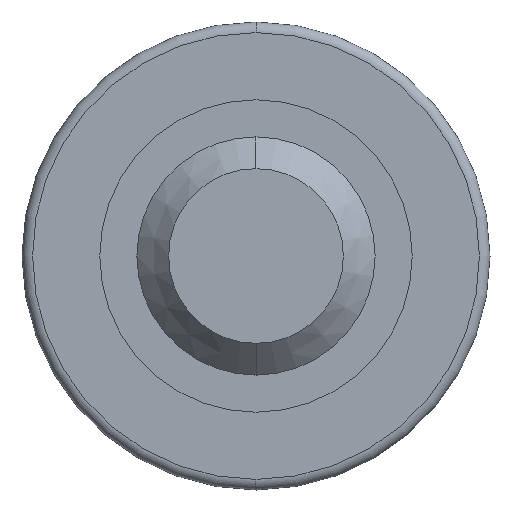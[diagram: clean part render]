
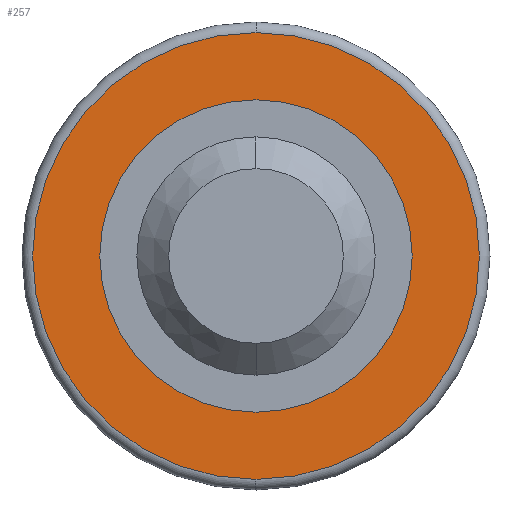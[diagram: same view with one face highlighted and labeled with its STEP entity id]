
A CAD part, left-side view. The second image highlights one B-rep face of the part: STEP entity #257.
In plain terms, the highlighted planar face has unit normal (-1, 0, 0).
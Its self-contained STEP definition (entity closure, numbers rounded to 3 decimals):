
#23 = DIRECTION ( 'NONE',  ( 0., 0., -1. ) ) ;
#33 = AXIS2_PLACEMENT_3D ( 'NONE', #394, #657, #335 ) ;
#59 = ORIENTED_EDGE ( 'NONE', *, *, #359, .T. ) ;
#67 = CARTESIAN_POINT ( 'NONE',  ( 15.5, 0., 42.2 ) ) ;
#81 = DIRECTION ( 'NONE',  ( 0., 0., 1. ) ) ;
#98 = EDGE_LOOP ( 'NONE', ( #265, #449 ) ) ;
#120 = DIRECTION ( 'NONE',  ( 0., 0., 1. ) ) ;
#126 = CARTESIAN_POINT ( 'NONE',  ( 15.5, 0., -42.2 ) ) ;
#139 = AXIS2_PLACEMENT_3D ( 'NONE', #174, #332, #120 ) ;
#147 = VERTEX_POINT ( 'NONE', #534 ) ;
#174 = CARTESIAN_POINT ( 'NONE',  ( 15.5, 0., 0. ) ) ;
#185 = EDGE_CURVE ( 'NONE', #393, #572, #236, .T. ) ;
#234 = CIRCLE ( 'NONE', #463, 29.5 ) ;
#236 = CIRCLE ( 'NONE', #628, 42.2 ) ;
#257 = ADVANCED_FACE ( 'NONE', ( #402, #275 ), #510, .T. ) ;
#265 = ORIENTED_EDGE ( 'NONE', *, *, #185, .T. ) ;
#275 = FACE_BOUND ( 'NONE', #684, .T. ) ;
#306 = DIRECTION ( 'NONE',  ( -1., 0., 0. ) ) ;
#312 = VERTEX_POINT ( 'NONE', #436 ) ;
#332 = DIRECTION ( 'NONE',  ( -1., 0., 0. ) ) ;
#335 = DIRECTION ( 'NONE',  ( 0., 0., -1. ) ) ;
#336 = DIRECTION ( 'NONE',  ( 1., 0., 0. ) ) ;
#359 = EDGE_CURVE ( 'NONE', #147, #312, #445, .T. ) ;
#367 = EDGE_CURVE ( 'NONE', #572, #393, #466, .T. ) ;
#393 = VERTEX_POINT ( 'NONE', #67 ) ;
#394 = CARTESIAN_POINT ( 'NONE',  ( 15.5, 0., 0. ) ) ;
#402 = FACE_OUTER_BOUND ( 'NONE', #98, .T. ) ;
#436 = CARTESIAN_POINT ( 'NONE',  ( 15.5, 0., 29.5 ) ) ;
#445 = CIRCLE ( 'NONE', #33, 29.5 ) ;
#449 = ORIENTED_EDGE ( 'NONE', *, *, #367, .T. ) ;
#455 = DIRECTION ( 'NONE',  ( -1., 0., 0. ) ) ;
#457 = CARTESIAN_POINT ( 'NONE',  ( 15.5, 0., 0. ) ) ;
#459 = CARTESIAN_POINT ( 'NONE',  ( 15.5, 0., -44.2 ) ) ;
#463 = AXIS2_PLACEMENT_3D ( 'NONE', #457, #336, #23 ) ;
#466 = CIRCLE ( 'NONE', #139, 42.2 ) ;
#481 = EDGE_CURVE ( 'NONE', #312, #147, #234, .T. ) ;
#509 = AXIS2_PLACEMENT_3D ( 'NONE', #459, #455, #81 ) ;
#510 = PLANE ( 'NONE',  #509 ) ;
#534 = CARTESIAN_POINT ( 'NONE',  ( 15.5, 0., -29.5 ) ) ;
#572 = VERTEX_POINT ( 'NONE', #126 ) ;
#627 = DIRECTION ( 'NONE',  ( 0., 0., 1. ) ) ;
#628 = AXIS2_PLACEMENT_3D ( 'NONE', #681, #306, #627 ) ;
#641 = ORIENTED_EDGE ( 'NONE', *, *, #481, .T. ) ;
#657 = DIRECTION ( 'NONE',  ( 1., 0., 0. ) ) ;
#681 = CARTESIAN_POINT ( 'NONE',  ( 15.5, 0., 0. ) ) ;
#684 = EDGE_LOOP ( 'NONE', ( #59, #641 ) ) ;
